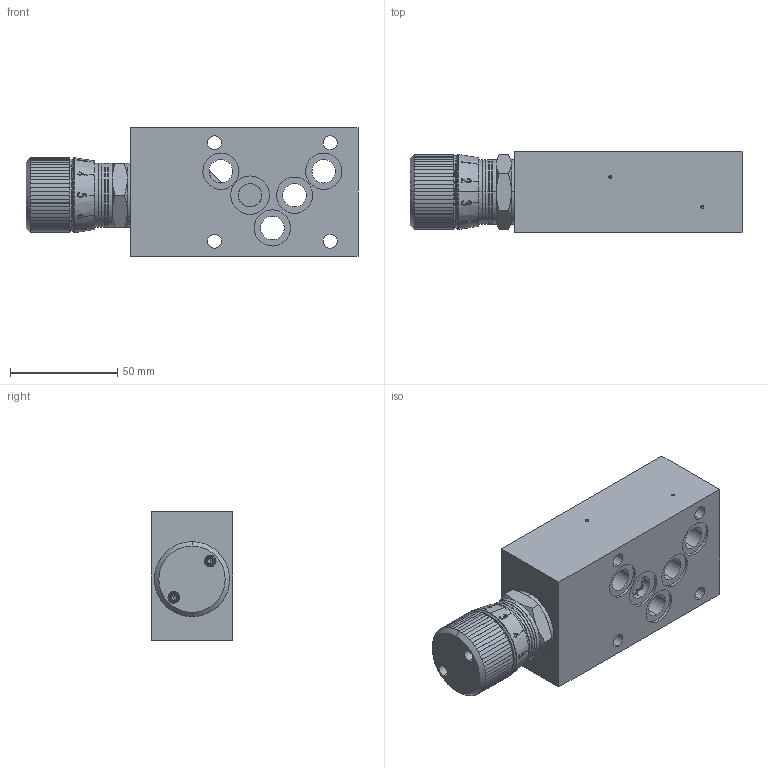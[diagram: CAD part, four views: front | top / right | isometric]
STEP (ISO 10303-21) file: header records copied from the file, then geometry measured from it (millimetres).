
FILE_DESCRIPTION (( 'STEP AP214' ), '1' );
FILE_NAME ('AURDA10.STEP', '2017-04-12T14:05:28', ( '' ), ( '' ), 'SwSTEP 2.0', 'SolidWorks 2016', '' );
FILE_SCHEMA (( 'AUTOMOTIVE_DESIGN' ));
Length unit declared in the file: millimetre
Products named in the file (1): AURDA10
Bounding box: 155 x 38 x 60 mm (x, y, z)
Volume: 261463.3 mm3; surface area: 39978.6 mm2
Topology: 1 solids, 2 shells, 915 faces, 2549 edges, 1664 vertices
Faces by surface type: plane 560, cylinder 146, bspline 118, cone 75, torus 16
Entity records: 53765 total; most frequent: CARTESIAN_POINT 22227, ORIENTED_EDGE 5078, DIRECTION 3640, EDGE_CURVE 2539, VERTEX_POINT 1664, AXIS2_PLACEMENT_3D 1361, B_SPLINE_CURVE_WITH_KNOTS 1028, EDGE_LOOP 969
